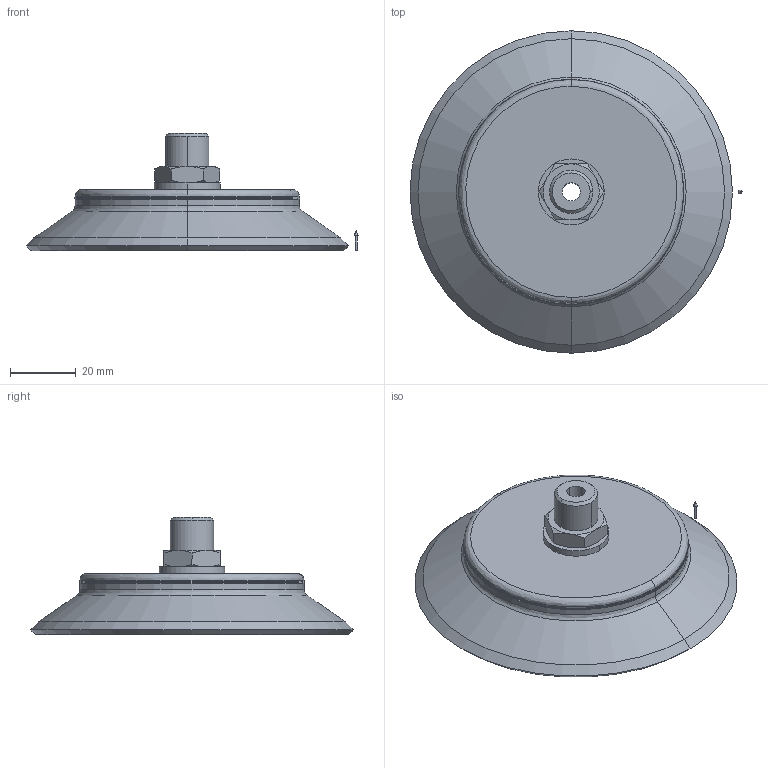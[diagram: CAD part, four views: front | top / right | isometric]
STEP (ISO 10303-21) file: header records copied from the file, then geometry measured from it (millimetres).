
FILE_DESCRIPTION (( 'STEP AP203' ), '1' );
FILE_NAME ('PFYN-95-NBR-55.STEP', '2024-03-04T03:10:03', ( '微软用户' ), ( '微软中国' ), 'SwSTEP 2.0', 'SolidWorks 2018', '' );
FILE_SCHEMA (( 'CONFIG_CONTROL_DESIGN' ));
Length unit declared in the file: millimetre
Products named in the file (3): PFYN-95-NBR-55; 1; 1_2
Assembly tree (2 placements, depth 2):
  PFYN-95-NBR-55
    1
    1_2
Bounding box: 100.71 x 97.83 x 35.5 mm (x, y, z)
Volume: 61973.5 mm3; surface area: 19652.6 mm2
Topology: 2 solids, 4 shells, 86 faces, 180 edges, 106 vertices
Faces by surface type: cone 29, cylinder 26, plane 19, bspline 12
Entity records: 2798 total; most frequent: CARTESIAN_POINT 681, DIRECTION 413, ORIENTED_EDGE 356, AXIS2_PLACEMENT_3D 182, EDGE_CURVE 178, VERTEX_POINT 106, CIRCLE 103, EDGE_LOOP 98
